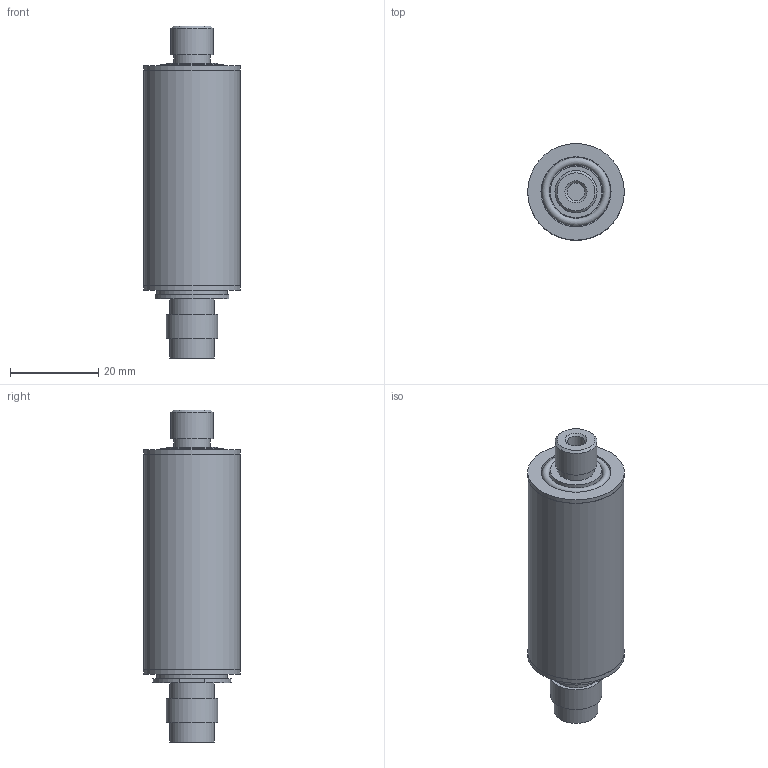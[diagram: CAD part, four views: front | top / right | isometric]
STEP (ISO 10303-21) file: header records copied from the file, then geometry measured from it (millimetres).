
FILE_DESCRIPTION((''),'2;1');
FILE_NAME('F:\AirCom-Produktdokumentation\Druckmessumformer\D8\CAD\CAD AirCom\3D\B-D8A.stp','2008-10-16T10:45:14',('Frank Schroers'),(''),'Autodesk Inventor 2008','Autodesk Inventor 2008','');
FILE_SCHEMA(('AUTOMOTIVE_DESIGN { 1 0 10303 214 1 1 1 1 }'));
Length unit declared in the file: millimetre
Products named in the file (1): B-D8A-02
Bounding box: 21.95 x 21.95 x 75.4 mm (x, y, z)
Volume: 20589.5 mm3; surface area: 6249.6 mm2
Topology: 2 solids, 2 shells, 46 faces, 87 edges, 57 vertices
Faces by surface type: cylinder 21, plane 18, sphere 4, cone 2, torus 1
Full cylindrical faces by diameter (mm): 0.9 x5, 4 x1, 8.35 x1, 9.57 x1, 10 x2, 11.7 x2, 15.9 x1, 16 x1, 21.85 x1, 21.95 x2
Entity records: 1046 total; most frequent: DIRECTION 196, CARTESIAN_POINT 152, ORIENTED_EDGE 112, AXIS2_PLACEMENT_3D 93, EDGE_LOOP 83, EDGE_CURVE 56, VERTEX_POINT 49, CIRCLE 46
